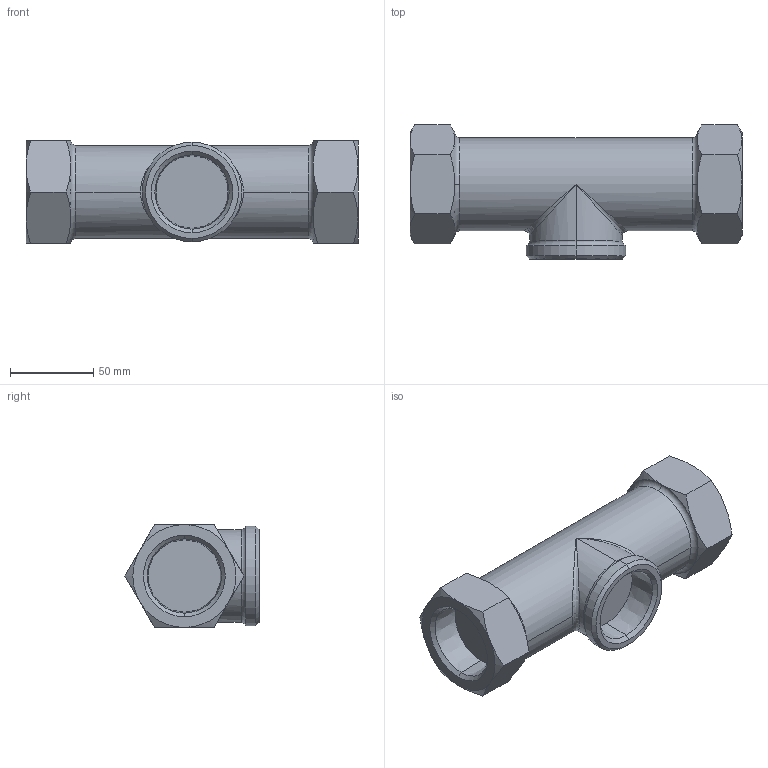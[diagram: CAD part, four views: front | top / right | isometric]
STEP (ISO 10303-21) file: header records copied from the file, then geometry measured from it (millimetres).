
FILE_DESCRIPTION (( 'STEP AP203' ), '1' );
FILE_NAME ('MS-1 40A.STEP', '2026-01-23T01:28:45', ( '' ), ( '' ), 'SwSTEP 2.0', 'SolidWorks 2024', '' );
FILE_SCHEMA (( 'CONFIG_CONTROL_DESIGN' ));
Length unit declared in the file: millimetre
Products named in the file (1): MS-1 40A
Bounding box: 200 x 80.8 x 62 mm (x, y, z)
Volume: 505479.3 mm3; surface area: 56219.1 mm2
Topology: 1 solids, 1 shells, 70 faces, 155 edges, 86 vertices
Faces by surface type: cone 38, plane 18, torus 6, cylinder 6, bspline 2
Entity records: 2378 total; most frequent: CARTESIAN_POINT 864, ORIENTED_EDGE 302, DIRECTION 299, EDGE_CURVE 151, AXIS2_PLACEMENT_3D 133, VERTEX_POINT 86, EDGE_LOOP 73, FACE_OUTER_BOUND 70
